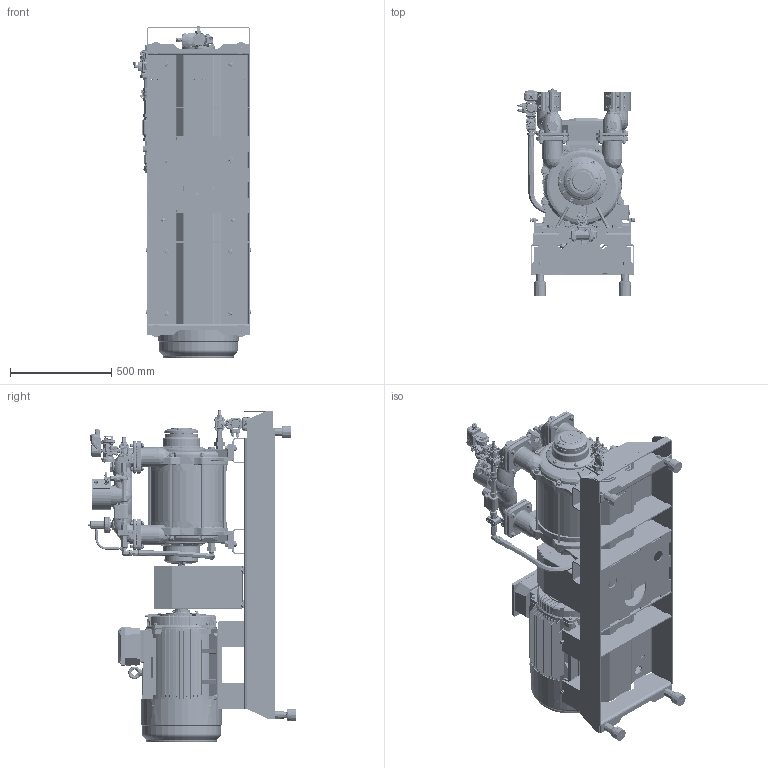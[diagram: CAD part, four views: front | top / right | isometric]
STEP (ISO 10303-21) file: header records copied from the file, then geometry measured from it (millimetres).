
FILE_DESCRIPTION(/* description */ (''),/* implementation_level */ '2;1');
FILE_NAME(/* name */ '1700122A.stp',/* time_stamp */ '2025-04-25T13:06:29+02:00',/* author */ ('JJ'),/* organization */ (''),/* preprocessor_version */ 'ST-DEVELOPER v20',/* originating_system */ 'Autodesk Inventor 2025',/* authorisation */ '');
FILE_SCHEMA (('AUTOMOTIVE_DESIGN { 1 0 10303 214 3 1 1 }'));
Products named in the file (1): 1700122A
Bounding box: 579.35 x 1025.65 x 1640.18 mm (x, y, z)
Volume: 102359952.2 mm3; surface area: 13586912.2 mm2
Topology: 177 solids, 177 shells, 23954 faces, 60997 edges, 38544 vertices
Faces by surface type: plane 10261, cylinder 5291, bspline 4234, cone 2223, torus 1767, sphere 178
Full cylindrical faces by diameter (mm): 0.8 x1, 0.847 x2, 0.857 x2, 1.656 x4, 1.676 x1, 1.7 x4, 1.8 x4, 2 x20, 2.2 x1, 2.5 x6, 3 x4, 3.2 x4, 3.3 x4, 3.6 x4, 4 x4, 4.134 x8, 4.2 x16, 4.3 x8, 4.45 x3, 4.567 x8, 4.917 x15, 4.92 x4, 5 x17, 5.3 x8, 5.589 x1, 5.6 x16, 6 x51, 6.1 x1, 6.4 x5, 6.5 x12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
Entity records: 1169802 total; most frequent: CARTESIAN_POINT 597206, ORIENTED_EDGE 121526, DIRECTION 103933, EDGE_CURVE 60763, VERTEX_POINT 38560, AXIS2_PLACEMENT_3D 37487, LINE 28959, VECTOR 28959
